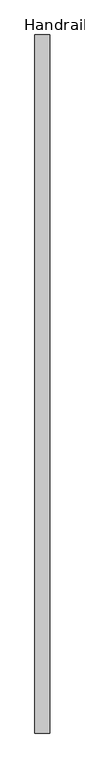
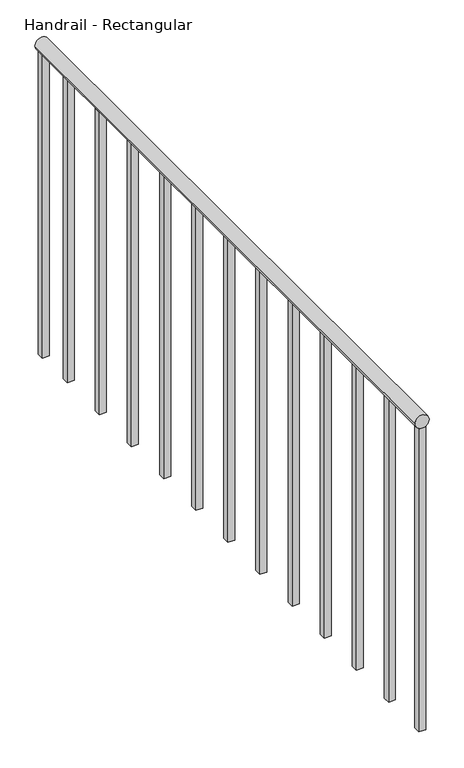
"""IFC4 building model written with IfcOpenShell, lengths in millimetres: railing geometry, Handrail - Rectangular."""

from ifc_helpers import new_model, si_unit, point, frame, frame_2d, origin, place, context, project, spatial, polyline, circle_curve, trimmed, segment, composite_curve, outline, extrude, source, transform, mapped, element, save


def handrail_rectangular_95a948e3(model_context):
    return source(origin(), model_context, "Body", "SweptSolid", [
        extrude(outline(composite_curve([segment(trimmed(circle_curve(frame_2d((3943.35, 2297.1410437)), 19.05), [point((3943.35, 2316.1910437))], [point((3943.35, 2278.0910437))], False, "CARTESIAN"), True, "CONTINUOUS"), segment(trimmed(circle_curve(frame_2d((3943.35, 2297.1410437)), 19.05), [point((3943.35, 2278.0910437))], [point((3943.35, 2316.1910437))], False, "CARTESIAN"), True, "CONTINUOUS")], self_intersect=False)), frame((0.0, -33825.9683133, 0.0), z_axis=(0.0, 1.0, 0.0), x_axis=(0.0, 0.0, 1.0)), (0.0, 0.0, 1.0), 1803.4),
        extrude(outline(polyline([(2287.6160437, -32159.0933133), (2287.6160437, -32140.0433133), (2306.6660437, -32140.0433133), (2306.6660437, -32159.0933133), (2287.6160437, -32159.0933133)])), frame((0.0, 0.0, 3048.0), z_axis=(0.0, 0.0, 1.0), x_axis=(1.0, 0.0, 0.0)), (0.0, 0.0, 1.0), 876.3),
        extrude(outline(polyline([(2287.6160437, -32311.4933133), (2287.6160437, -32292.4433133), (2306.6660437, -32292.4433133), (2306.6660437, -32311.4933133), (2287.6160437, -32311.4933133)])), frame((0.0, 0.0, 3048.0), z_axis=(0.0, 0.0, 1.0), x_axis=(1.0, 0.0, 0.0)), (0.0, 0.0, 1.0), 876.3),
        extrude(outline(polyline([(2287.6160437, -32463.8933133), (2287.6160437, -32444.8433133), (2306.6660437, -32444.8433133), (2306.6660437, -32463.8933133), (2287.6160437, -32463.8933133)])), frame((0.0, 0.0, 3048.0), z_axis=(0.0, 0.0, 1.0), x_axis=(1.0, 0.0, 0.0)), (0.0, 0.0, 1.0), 876.3),
        extrude(outline(polyline([(2287.6160437, -32616.2933133), (2287.6160437, -32597.2433133), (2306.6660437, -32597.2433133), (2306.6660437, -32616.2933133), (2287.6160437, -32616.2933133)])), frame((0.0, 0.0, 3048.0), z_axis=(0.0, 0.0, 1.0), x_axis=(1.0, 0.0, 0.0)), (0.0, 0.0, 1.0), 876.3),
        extrude(outline(polyline([(2287.6160437, -32768.6933133), (2287.6160437, -32749.6433133), (2306.6660437, -32749.6433133), (2306.6660437, -32768.6933133), (2287.6160437, -32768.6933133)])), frame((0.0, 0.0, 3048.0), z_axis=(0.0, 0.0, 1.0), x_axis=(1.0, 0.0, 0.0)), (0.0, 0.0, 1.0), 876.3),
        extrude(outline(polyline([(2287.6160437, -32921.0933133), (2287.6160437, -32902.0433133), (2306.6660437, -32902.0433133), (2306.6660437, -32921.0933133), (2287.6160437, -32921.0933133)])), frame((0.0, 0.0, 3048.0), z_axis=(0.0, 0.0, 1.0), x_axis=(1.0, 0.0, 0.0)), (0.0, 0.0, 1.0), 876.3),
        extrude(outline(polyline([(2287.6160437, -33073.4933133), (2287.6160437, -33054.4433133), (2306.6660437, -33054.4433133), (2306.6660437, -33073.4933133), (2287.6160437, -33073.4933133)])), frame((0.0, 0.0, 3048.0), z_axis=(0.0, 0.0, 1.0), x_axis=(1.0, 0.0, 0.0)), (0.0, 0.0, 1.0), 876.3),
        extrude(outline(polyline([(2287.6160437, -33225.8933133), (2287.6160437, -33206.8433133), (2306.6660437, -33206.8433133), (2306.6660437, -33225.8933133), (2287.6160437, -33225.8933133)])), frame((0.0, 0.0, 3048.0), z_axis=(0.0, 0.0, 1.0), x_axis=(1.0, 0.0, 0.0)), (0.0, 0.0, 1.0), 876.3),
        extrude(outline(polyline([(2287.6160437, -33378.2933133), (2287.6160437, -33359.2433133), (2306.6660437, -33359.2433133), (2306.6660437, -33378.2933133), (2287.6160437, -33378.2933133)])), frame((0.0, 0.0, 3048.0), z_axis=(0.0, 0.0, 1.0), x_axis=(1.0, 0.0, 0.0)), (0.0, 0.0, 1.0), 876.3),
        extrude(outline(polyline([(2287.6160437, -33530.6933133), (2287.6160437, -33511.6433133), (2306.6660437, -33511.6433133), (2306.6660437, -33530.6933133), (2287.6160437, -33530.6933133)])), frame((0.0, 0.0, 3048.0), z_axis=(0.0, 0.0, 1.0), x_axis=(1.0, 0.0, 0.0)), (0.0, 0.0, 1.0), 876.3),
        extrude(outline(polyline([(2287.6160437, -33683.0933133), (2287.6160437, -33664.0433133), (2306.6660437, -33664.0433133), (2306.6660437, -33683.0933133), (2287.6160437, -33683.0933133)])), frame((0.0, 0.0, 3048.0), z_axis=(0.0, 0.0, 1.0), x_axis=(1.0, 0.0, 0.0)), (0.0, 0.0, 1.0), 876.3),
        extrude(outline(polyline([(2287.6160437, -32041.6183133), (2287.6160437, -32022.5683133), (2306.6660437, -32022.5683133), (2306.6660437, -32041.6183133), (2287.6160437, -32041.6183133)])), frame((0.0, 0.0, 3048.0), z_axis=(0.0, 0.0, 1.0), x_axis=(1.0, 0.0, 0.0)), (0.0, 0.0, 1.0), 876.3),
        extrude(outline(polyline([(2287.6160437, -33825.9683133), (2287.6160437, -33806.9183133), (2306.6660437, -33806.9183133), (2306.6660437, -33825.9683133), (2287.6160437, -33825.9683133)])), frame((0.0, 0.0, 3048.0), z_axis=(0.0, 0.0, 1.0), x_axis=(1.0, 0.0, 0.0)), (0.0, 0.0, 1.0), 876.3),
    ])


if __name__ == "__main__":
    model = new_model("IFC4")
    model_context = context("Model", 3, world=origin())
    ifc_project = project(units=[si_unit("LENGTHUNIT", "METRE", prefix="MILLI")], contexts=[model_context])
    site = spatial("IfcSite", under=ifc_project)
    building = spatial("IfcBuilding", under=site)
    placement = place(None, origin())
    handrail_rectangular_shape = handrail_rectangular_95a948e3(model_context)
    element("IfcRailing", 1, ObjectType="Handrail - Rectangular", at=placement, inside=building, context=model_context, shape_type="MappedRepresentation", body=[
        mapped(handrail_rectangular_shape, transform((0.0, 0.0, 0.0), x_axis=(1.0, 0.0, 0.0), y_axis=(0.0, 1.0, 0.0), z_axis=(0.0, 0.0, 1.0))),
    ])
    save(model, "model.ifc")
